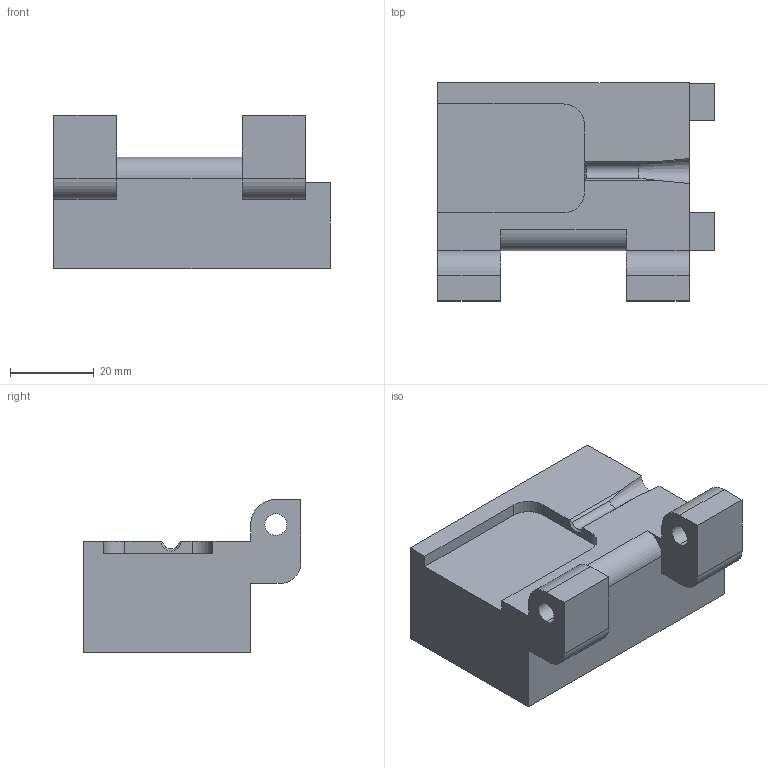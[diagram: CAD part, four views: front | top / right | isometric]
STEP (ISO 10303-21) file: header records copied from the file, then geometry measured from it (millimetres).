
FILE_DESCRIPTION (( 'STEP AP214' ), '1' );
FILE_NAME ('GZ26.07_V1下压块.STEP', '2021-03-31T08:45:55', ( '微软中国' ), ( 'Microsoft' ), 'SwSTEP 2.0', 'SolidWorks 2017', '' );
FILE_SCHEMA (( 'AUTOMOTIVE_DESIGN' ));
Length unit declared in the file: millimetre
Products named in the file (1): GZ26.07_V1狟揤輸
Bounding box: 66 x 52 x 36.5 mm (x, y, z)
Volume: 65616.8 mm3; surface area: 14764.7 mm2
Topology: 1 solids, 1 shells, 65 faces, 179 edges, 112 vertices
Faces by surface type: plane 35, cylinder 20, cone 10
Entity records: 2143 total; most frequent: CARTESIAN_POINT 375, ORIENTED_EDGE 342, DIRECTION 339, EDGE_CURVE 171, LINE 123, VECTOR 123, VERTEX_POINT 112, AXIS2_PLACEMENT_3D 108
